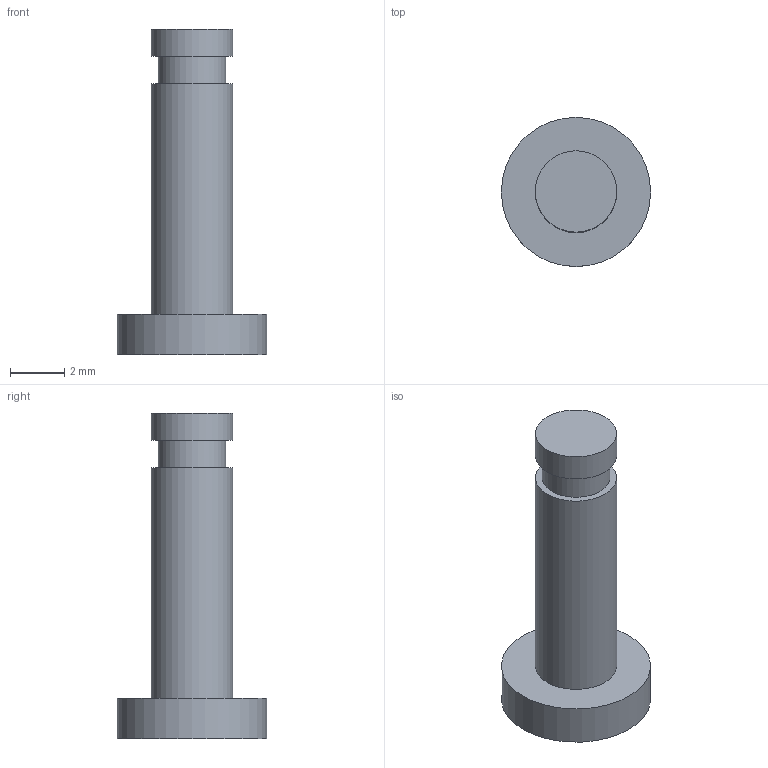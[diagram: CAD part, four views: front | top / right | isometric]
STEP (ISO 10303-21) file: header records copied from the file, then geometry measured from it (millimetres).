
FILE_DESCRIPTION(('Open CASCADE Model'),'2;1');
FILE_NAME('F08-PIN3-L12','2026-11-15T22:32:30',('Author'),( 'Open CASCADE'),'Open CASCADE STEP processor 8.0','build123d', 'Unknown');
FILE_SCHEMA(('AUTOMOTIVE_DESIGN { 1 0 10303 214 1 1 1 1 }'));
Length unit declared in the file: millimetre
Products named in the file (1): F08-PIN3-L12
Bounding box: 5.5 x 5.5 x 12 mm (x, y, z)
Volume: 107.7 mm3; surface area: 175.1 mm2
Topology: 1 solids, 1 shells, 9 faces, 12 edges, 8 vertices
Faces by surface type: plane 5, cylinder 4
Full cylindrical faces by diameter (mm): 2.5 x1, 3 x2, 5.5 x1
Entity records: 360 total; most frequent: DIRECTION 64, CARTESIAN_POINT 54, ORIENTED_EDGE 24, PCURVE 24, DEFINITIONAL_REPRESENTATION 24, LINE 20, VECTOR 20, AXIS2_PLACEMENT_3D 18
